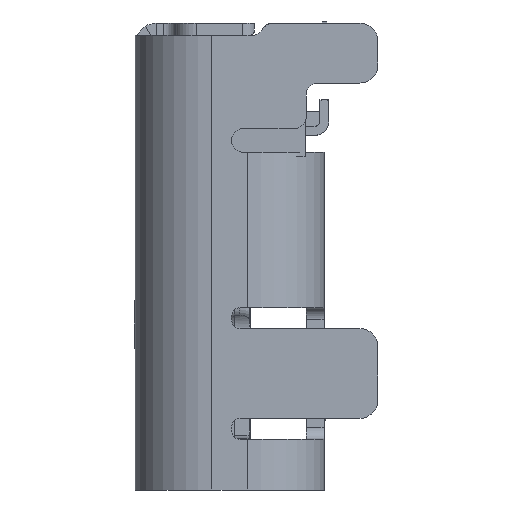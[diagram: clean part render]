
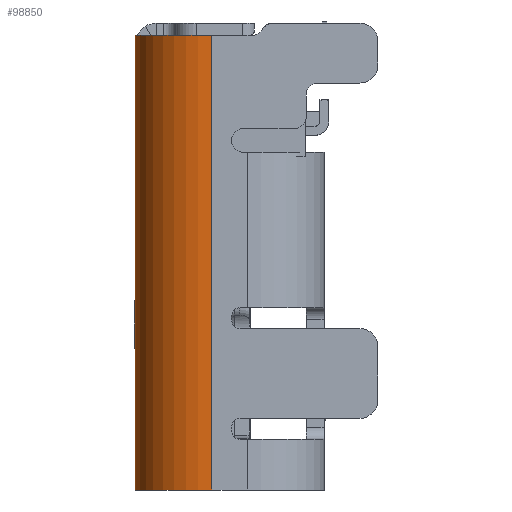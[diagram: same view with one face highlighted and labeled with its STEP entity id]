
A CAD part, left-side view. The second image highlights one B-rep face of the part: STEP entity #98850.
In plain terms, the highlighted cylindrical face has radius 1.28 mm (diameter 2.56 mm), a partial arc.
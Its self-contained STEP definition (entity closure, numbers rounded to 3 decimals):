
#91878=CARTESIAN_POINT('',(-3.19,0.5,
-10.272));
#91879=DIRECTION('',(0.,0.,-1.));
#91880=DIRECTION('',(-1.,0.,0.));
#91881=AXIS2_PLACEMENT_3D('',#91878,#91879,#91880);
#91892=DIRECTION('',(0.,0.,1.));
#91893=VECTOR('',#91892,7.61);
#91894=CARTESIAN_POINT('',(-3.19,1.78,
-10.272));
#91895=LINE('',#91894,#91893);
#91896=DIRECTION('',(0.,0.,-1.));
#91897=VECTOR('',#91896,7.61);
#91898=CARTESIAN_POINT('',(-4.47,0.5,
-2.662));
#91899=LINE('',#91898,#91897);
#91900=CARTESIAN_POINT('',(-3.19,0.5,
-2.662));
#91901=DIRECTION('',(0.,0.,1.));
#91902=DIRECTION('',(0.,1.,0.));
#91903=AXIS2_PLACEMENT_3D('',#91900,#91901,#91902);
#94762=CARTESIAN_POINT('',(-3.19,1.78,
-10.272));
#94763=VERTEX_POINT('',#94762);
#94764=CARTESIAN_POINT('',(-3.19,1.78,
-2.662));
#94765=VERTEX_POINT('',#94764);
#94879=CARTESIAN_POINT('',(-4.47,0.5,
-10.272));
#94880=VERTEX_POINT('',#94879);
#94883=CARTESIAN_POINT('',(-4.47,0.5,
-2.662));
#94884=VERTEX_POINT('',#94883);
#98837=CARTESIAN_POINT('',(-3.19,0.5,
-10.424));
#98838=DIRECTION('',(0.,0.,1.));
#98839=DIRECTION('',(1.,0.,0.));
#98840=AXIS2_PLACEMENT_3D('',#98837,#98838,#98839);
#98841=CYLINDRICAL_SURFACE('',#98840,1.28);
#98843=ORIENTED_EDGE('',*,*,#98842,.F.);
#98844=ORIENTED_EDGE('',*,*,#96233,.F.);
#98845=ORIENTED_EDGE('',*,*,#98827,.F.);
#98847=ORIENTED_EDGE('',*,*,#98846,.F.);
#98848=EDGE_LOOP('',(#98843,#98844,#98845,#98847));
#98849=FACE_OUTER_BOUND('',#98848,.F.);
#91882=CIRCLE('',#91881,1.28);
#91904=CIRCLE('',#91903,1.28);
#96233=EDGE_CURVE('',#94763,#94765,#91895,.T.);
#98827=EDGE_CURVE('',#94880,#94763,#91882,.T.);
#98842=EDGE_CURVE('',#94765,#94884,#91904,.T.);
#98846=EDGE_CURVE('',#94884,#94880,#91899,.T.);
#98850=ADVANCED_FACE('',(#98849),#98841,.F.);
